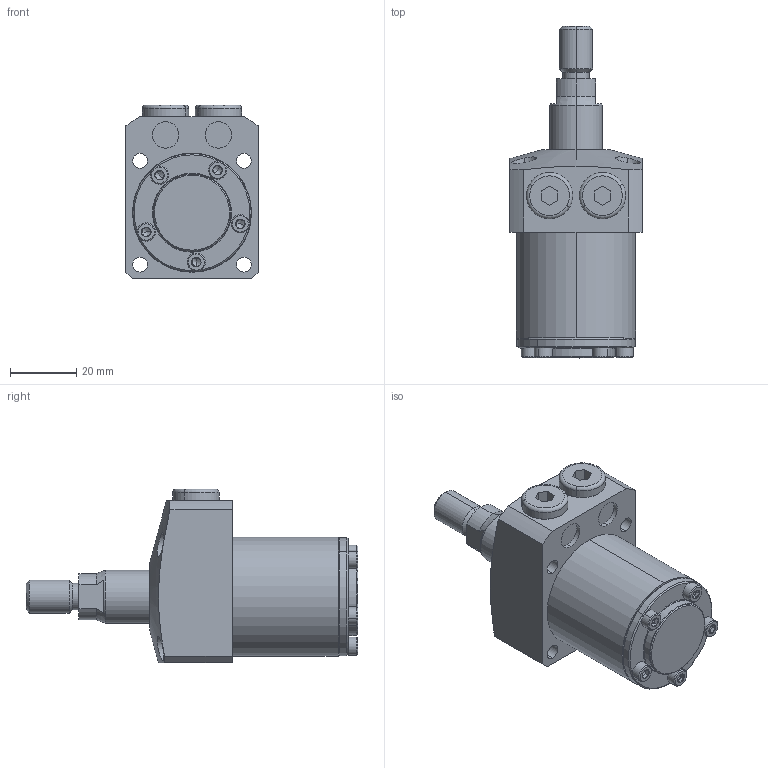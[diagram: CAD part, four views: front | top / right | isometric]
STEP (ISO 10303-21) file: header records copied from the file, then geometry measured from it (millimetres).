
FILE_DESCRIPTION (( 'STEP AP203' ), '1' );
FILE_NAME ('680360-CT-030.step', '2016-11-02T03:16:56', ( 'wxp' ), ( '' ), 'SwSTEP 2.0', 'SolidWorks 2011', '' );
FILE_SCHEMA (( 'CONFIG_CONTROL_DESIGN' ));
Length unit declared in the file: millimetre
Products named in the file (6): 680360-CT-030; 5^680360-CT-030; 4^680360-CT-030; 3^680360-CT-030; 2^680360-CT-030; 1^680360-CT-030
Assembly tree (10 placements, depth 2):
  680360-CT-030
    4^680360-CT-030  x2
    3^680360-CT-030  x5
    2^680360-CT-030
    1^680360-CT-030
    5^680360-CT-030
Bounding box: 40 x 100.36 x 52.5 mm (x, y, z)
Volume: 85788.2 mm3; surface area: 21765.3 mm2
Topology: 10 solids, 10 shells, 311 faces, 612 edges, 338 vertices
Faces by surface type: plane 124, cylinder 87, cone 84, torus 16
Entity records: 5467 total; most frequent: CARTESIAN_POINT 1098, DIRECTION 837, ORIENTED_EDGE 680, AXIS2_PLACEMENT_3D 349, EDGE_CURVE 340, VERTEX_POINT 206, EDGE_LOOP 196, CIRCLE 175
